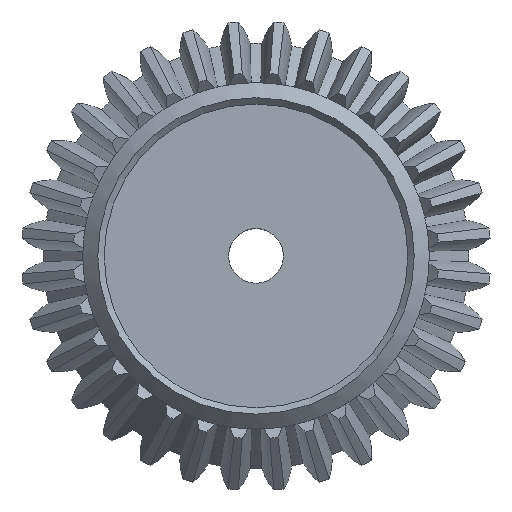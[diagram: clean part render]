
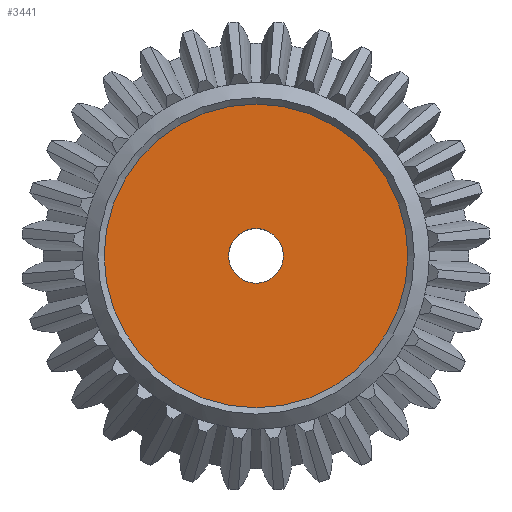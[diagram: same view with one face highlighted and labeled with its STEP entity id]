
A CAD part, top view. The second image highlights one B-rep face of the part: STEP entity #3441.
In plain terms, the highlighted planar face has unit normal (0, 0, 1).
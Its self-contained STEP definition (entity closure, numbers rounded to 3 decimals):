
#539=FACE_BOUND('',#859,.T.);
#552=PLANE('',#3791);
#635=FACE_OUTER_BOUND('',#858,.T.);
#858=EDGE_LOOP('',(#2567));
#859=EDGE_LOOP('',(#2568));
#1084=CIRCLE('',#3625,1.95);
#1185=CIRCLE('',#3792,10.808);
#1316=VERTEX_POINT('',#4820);
#1512=VERTEX_POINT('',#5992);
#1691=EDGE_CURVE('',#1316,#1316,#1084,.T.);
#1920=EDGE_CURVE('',#1512,#1512,#1185,.T.);
#2567=ORIENTED_EDGE('',*,*,#1920,.F.);
#2568=ORIENTED_EDGE('',*,*,#1691,.T.);
#3441=ADVANCED_FACE('',(#635,#539),#552,.T.);
#3625=AXIS2_PLACEMENT_3D('',#4822,#4053,#4054);
#3791=AXIS2_PLACEMENT_3D('',#5991,#4385,#4386);
#3792=AXIS2_PLACEMENT_3D('',#5993,#4387,#4388);
#4053=DIRECTION('center_axis',(0.,0.,-1.));
#4054=DIRECTION('ref_axis',(1.,0.,0.));
#4385=DIRECTION('center_axis',(0.,0.,1.));
#4386=DIRECTION('ref_axis',(1.,0.,0.));
#4387=DIRECTION('center_axis',(0.,0.,-1.));
#4388=DIRECTION('ref_axis',(0.,1.,0.));
#4820=CARTESIAN_POINT('',(-1.95,0.,-12.));
#4822=CARTESIAN_POINT('Origin',(0.,0.,-12.));
#5991=CARTESIAN_POINT('Origin',(0.,5.404,-12.));
#5992=CARTESIAN_POINT('',(0.,-10.808,-12.));
#5993=CARTESIAN_POINT('Origin',(0.,0.,-12.));
